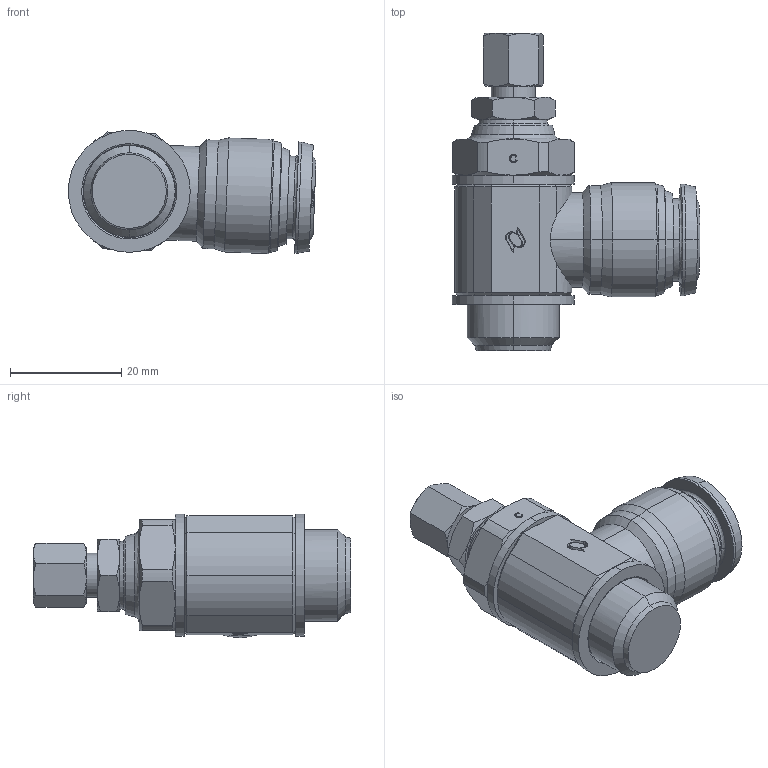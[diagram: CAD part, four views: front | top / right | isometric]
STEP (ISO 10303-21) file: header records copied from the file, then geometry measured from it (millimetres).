
FILE_DESCRIPTION (( 'STEP AP203' ), '1' );
FILE_NAME ('249934.STEP', '2016-09-20T13:47:01', ( '' ), ( '' ), 'SwSTEP 2.0', 'SolidWorks 2016', '' );
FILE_SCHEMA (( 'CONFIG_CONTROL_DESIGN' ));
Length unit declared in the file: millimetre
Products named in the file (1): 249934
Bounding box: 44.52 x 57 x 22.15 mm (x, y, z)
Volume: 22974.5 mm3; surface area: 7401.9 mm2
Topology: 3 solids, 3 shells, 335 faces, 838 edges, 526 vertices
Faces by surface type: cone 109, plane 86, bspline 84, cylinder 56
Entity records: 15327 total; most frequent: CARTESIAN_POINT 7716, ORIENTED_EDGE 1676, DIRECTION 1420, EDGE_CURVE 838, AXIS2_PLACEMENT_3D 562, VERTEX_POINT 526, EDGE_LOOP 364, ADVANCED_FACE 335
